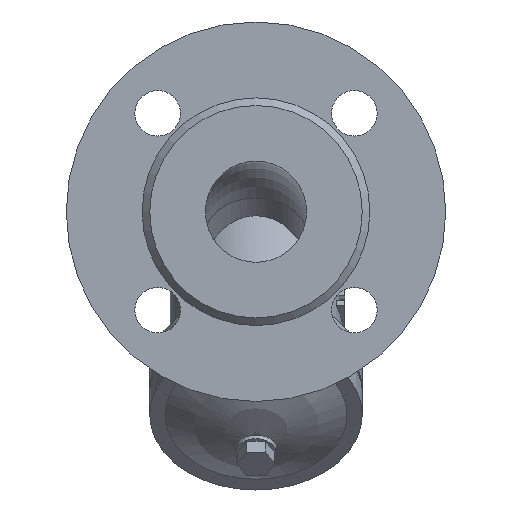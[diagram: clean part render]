
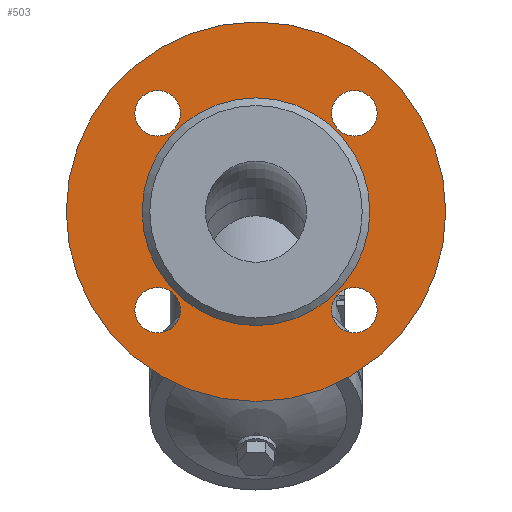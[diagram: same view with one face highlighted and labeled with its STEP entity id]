
A CAD part, front view. The second image highlights one B-rep face of the part: STEP entity #503.
In plain terms, the highlighted planar face has unit normal (0, -1, 0).
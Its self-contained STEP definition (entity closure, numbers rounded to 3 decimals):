
#503=ADVANCED_FACE('',(#1155,#1157,#1159,#1161,#1163,#1165),#1167,.T.);
#1155=FACE_BOUND('',#1156,.T.);
#1156=EDGE_LOOP('',(#1588));
#1157=FACE_BOUND('',#1158,.T.);
#1158=EDGE_LOOP('',(#1589));
#1159=FACE_BOUND('',#1160,.T.);
#1160=EDGE_LOOP('',(#1590));
#1161=FACE_BOUND('',#1162,.T.);
#1162=EDGE_LOOP('',(#1591));
#1163=FACE_BOUND('',#1164,.T.);
#1164=EDGE_LOOP('',(#1592));
#1165=FACE_BOUND('',#1166,.T.);
#1166=EDGE_LOOP('',(#1593));
#1167=PLANE('',#1168);
#1168=AXIS2_PLACEMENT_3D('',#1169,#1170,#1171);
#1169=CARTESIAN_POINT('',(0.,-97.,0.));
#1170=DIRECTION('',(0.,-1.,0.));
#1171=DIRECTION('',(0.,0.,1.));
#1588=ORIENTED_EDGE('',*,*,#1764,.F.);
#1589=ORIENTED_EDGE('',*,*,#1768,.T.);
#1590=ORIENTED_EDGE('',*,*,#1767,.T.);
#1591=ORIENTED_EDGE('',*,*,#1766,.T.);
#1592=ORIENTED_EDGE('',*,*,#1775,.T.);
#1593=ORIENTED_EDGE('',*,*,#1765,.T.);
#1764=EDGE_CURVE('',#1973,#1973,#1974,.T.);
#1765=EDGE_CURVE('',#1975,#1975,#1976,.F.);
#1766=EDGE_CURVE('',#1977,#1977,#1978,.F.);
#1767=EDGE_CURVE('',#1979,#1979,#1980,.F.);
#1768=EDGE_CURVE('',#1981,#1981,#1982,.F.);
#1775=EDGE_CURVE('',#1995,#1995,#1996,.T.);
#1973=VERTEX_POINT('',#3227);
#1974=CIRCLE('',#3228,75.);
#1975=VERTEX_POINT('',#3232);
#1976=CIRCLE('',#3233,9.);
#1977=VERTEX_POINT('',#3237);
#1978=CIRCLE('',#3238,9.);
#1979=VERTEX_POINT('',#3242);
#1980=CIRCLE('',#3243,9.);
#1981=VERTEX_POINT('',#3247);
#1982=CIRCLE('',#3248,9.);
#1995=VERTEX_POINT('',#3282);
#1996=CIRCLE('',#3283,45.);
#3227=CARTESIAN_POINT('',(0.,-97.,75.));
#3228=AXIS2_PLACEMENT_3D('',#3229,#3230,#3231);
#3229=CARTESIAN_POINT('',(0.,-97.,0.));
#3230=DIRECTION('',(0.,1.,0.));
#3231=DIRECTION('',(0.,0.,1.));
#3232=CARTESIAN_POINT('',(-29.891,-97.,38.891));
#3233=AXIS2_PLACEMENT_3D('',#3234,#3235,#3236);
#3234=CARTESIAN_POINT('',(-38.891,-97.,38.891));
#3235=DIRECTION('',(0.,-1.,0.));
#3236=DIRECTION('',(1.,0.,0.));
#3237=CARTESIAN_POINT('',(-38.891,-97.,-29.891));
#3238=AXIS2_PLACEMENT_3D('',#3239,#3240,#3241);
#3239=CARTESIAN_POINT('',(-38.891,-97.,-38.891));
#3240=DIRECTION('',(0.,-1.,0.));
#3241=DIRECTION('',(0.,0.,1.));
#3242=CARTESIAN_POINT('',(29.891,-97.,-38.891));
#3243=AXIS2_PLACEMENT_3D('',#3244,#3245,#3246);
#3244=CARTESIAN_POINT('',(38.891,-97.,-38.891));
#3245=DIRECTION('',(0.,-1.,0.));
#3246=DIRECTION('',(-1.,0.,0.));
#3247=CARTESIAN_POINT('',(38.891,-97.,29.891));
#3248=AXIS2_PLACEMENT_3D('',#3249,#3250,#3251);
#3249=CARTESIAN_POINT('',(38.891,-97.,38.891));
#3250=DIRECTION('',(0.,-1.,0.));
#3251=DIRECTION('',(0.,0.,-1.));
#3282=CARTESIAN_POINT('',(0.,-97.,45.));
#3283=AXIS2_PLACEMENT_3D('',#3284,#3285,#3286);
#3284=CARTESIAN_POINT('',(0.,-97.,0.));
#3285=DIRECTION('',(0.,1.,0.));
#3286=DIRECTION('',(0.,0.,1.));
